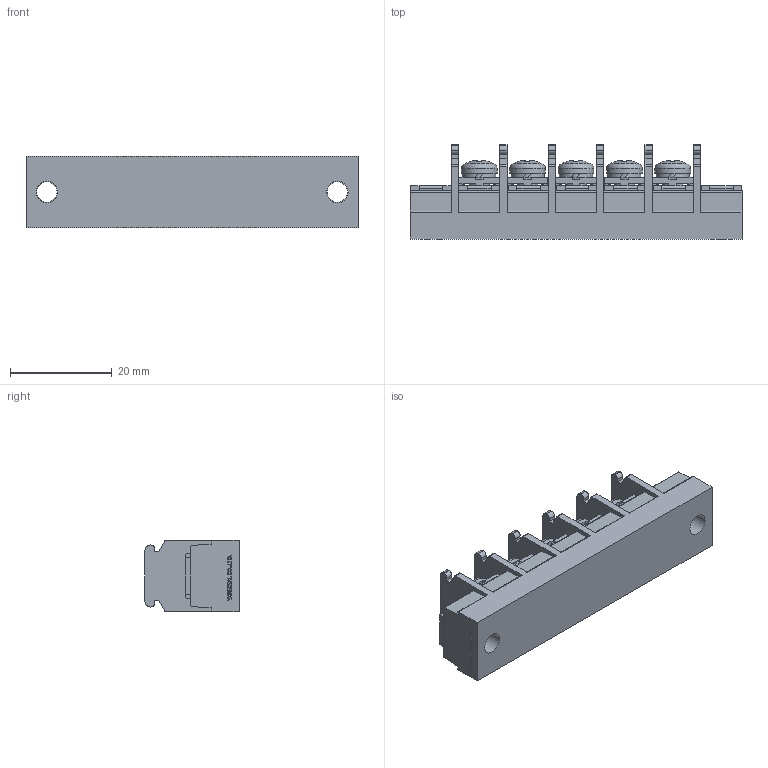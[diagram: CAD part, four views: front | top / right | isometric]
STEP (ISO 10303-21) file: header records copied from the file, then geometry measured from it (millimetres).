
FILE_DESCRIPTION(/* description */ ('Alibre Inc.'),/* implementation_level */ '2;1');
FILE_NAME(/* name */ 'export-E027792D-B6A4-41BB-9C93-65E0F44B8E7B',/* time_stamp */ '2021-02-13T15:48:48+09:00',/* author */ (''),/* organization */ (''),/* preprocessor_version */ 'ST-DEVELOPER v17',/* originating_system */ 'Alibre',/* authorisation */ '');
FILE_SCHEMA (('CONFIG_CONTROL_DESIGN'));
Length unit declared in the file: millimetre
Bounding box: 65.2 x 18.5 x 14 mm (x, y, z)
Volume: 10244.4 mm3; surface area: 6790.2 mm2
Topology: 1 solids, 22 shells, 1021 faces, 2869 edges, 1897 vertices
Faces by surface type: plane 758, cylinder 119, bspline 104, cone 25, torus 10, sphere 5
Full cylindrical faces by diameter (mm): 4 x12, 4.2 x2, 7 x5
Entity records: 31384 total; most frequent: CARTESIAN_POINT 6686, ORIENTED_EDGE 5646, DIRECTION 3926, EDGE_CURVE 2823, VECTOR 2074, LINE 2074, VERTEX_POINT 1885, AXIS2_PLACEMENT_3D 1279
